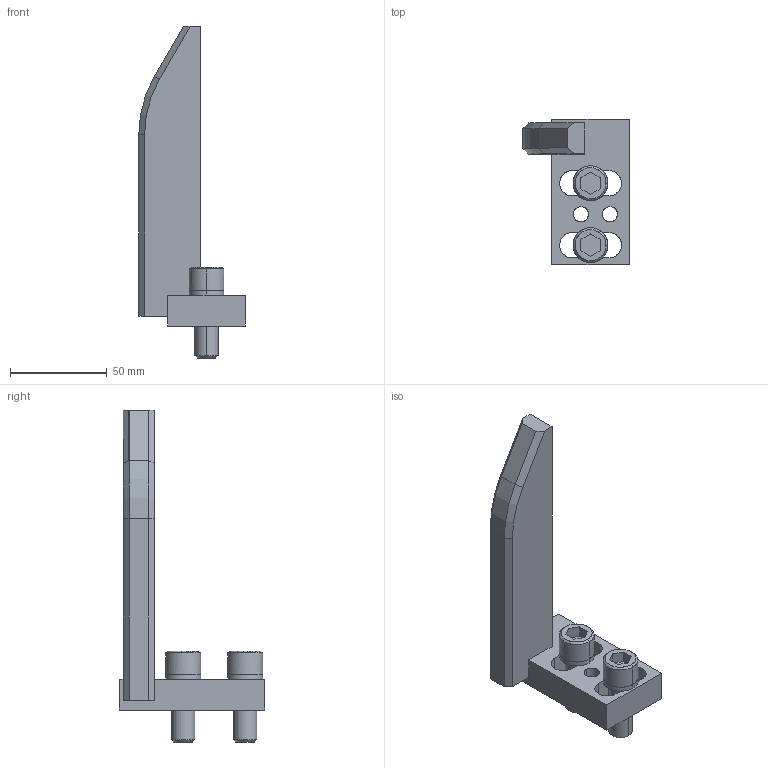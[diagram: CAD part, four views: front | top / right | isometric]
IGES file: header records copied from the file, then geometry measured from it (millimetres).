
Global section: file name: E:\UnigraphicsGraphicData\MISUMI_PRESS-PARTS\IGES\3d_enstr-155-40-m12_01468_r00.igs; native system: NX V5.0; preprocessor: UGS NX IGES V5.0; author: MISUMI; date: 20110105.160634; units: millimetre
Bounding box: 55 x 75 x 171.5 mm (x, y, z)
Surface area: 29948.9 mm2 (no closed solid volume)
Topology: 0 solids, 0 shells, 80 faces, 516 edges, 516 vertices
Faces by surface type: bspline 80
